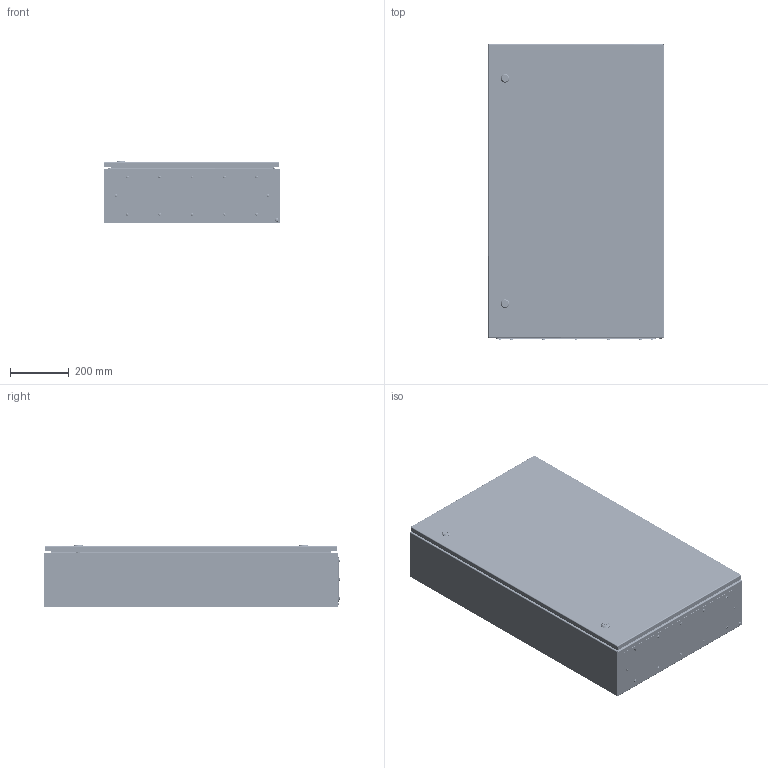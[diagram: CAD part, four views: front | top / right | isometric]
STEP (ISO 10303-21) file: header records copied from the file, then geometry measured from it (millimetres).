
FILE_DESCRIPTION (( 'STEP AP214' ), '1' );
FILE_NAME ('T-CCS 100.60.21.STEP', '2024-08-19T14:13:57', ( '' ), ( '' ), 'SwSTEP 2.0', 'SolidWorks 2019', '' );
FILE_SCHEMA (( 'AUTOMOTIVE_DESIGN' ));
Length unit declared in the file: millimetre
Products named in the file (1): T-CCS 100.60.21
Bounding box: 600 x 1006.62 x 214.15 mm (x, y, z)
Volume: 5056377.1 mm3; surface area: 5707174.1 mm2
Topology: 103 solids, 103 shells, 5273 faces, 13476 edges, 8452 vertices
Faces by surface type: plane 2492, cylinder 1696, cone 478, torus 304, bspline 243, sphere 60
Entity records: 298015 total; most frequent: CARTESIAN_POINT 115551, ORIENTED_EDGE 26810, DIRECTION 24526, EDGE_CURVE 13405, AXIS2_PLACEMENT_3D 8574, VERTEX_POINT 8450, VECTOR 7378, LINE 7378
